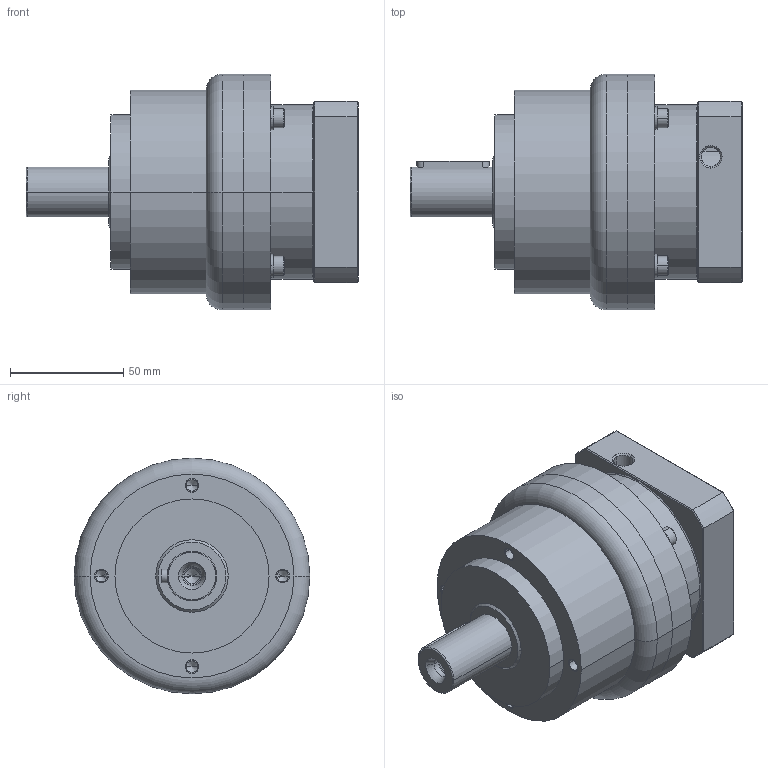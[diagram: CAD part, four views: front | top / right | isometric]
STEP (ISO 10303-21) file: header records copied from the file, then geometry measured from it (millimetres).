
FILE_DESCRIPTION((''),'2;1');
FILE_NAME('AE0901-P0403300202_ASM','2008-09-10T',('d00080'),(''),'PRO/ENGINEER BY PARAMETRIC TECHNOLOGY CORPORATION, 2006170','PRO/ENGINEER BY PARAMETRIC TECHNOLOGY CORPORATION, 2006170','');
FILE_SCHEMA(('CONFIG_CONTROL_DESIGN'));
Length unit declared in the file: millimetre
Products named in the file (7): AE090-1; P1302300001; 233100003; 220100606; COVER-SET-3_ASM; P0403300202; AE0901-P0403300202_ASM
Assembly tree (12 placements, depth 3):
  AE0901-P0403300202_ASM
    AE090-1
    COVER-SET-3_ASM
      P1302300001
      233100003  x4
      220100606  x4
    P0403300202
Bounding box: 146.5 x 104 x 104 mm (x, y, z)
Volume: 637685 mm3; surface area: 100570.8 mm2
Topology: 11 solids, 21 shells, 402 faces, 924 edges, 563 vertices
Faces by surface type: cylinder 171, plane 125, cone 76, torus 30
Entity records: 8820 total; most frequent: CARTESIAN_POINT 1728, DIRECTION 1618, ORIENTED_EDGE 1304, AXIS2_PLACEMENT_3D 679, EDGE_CURVE 672, VERTEX_POINT 425, CIRCLE 359, EDGE_LOOP 349
